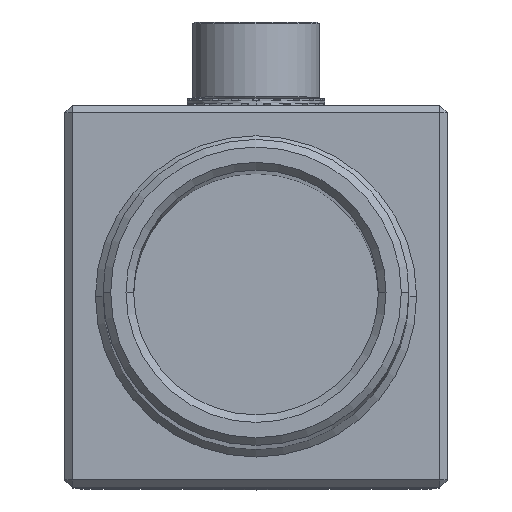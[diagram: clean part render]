
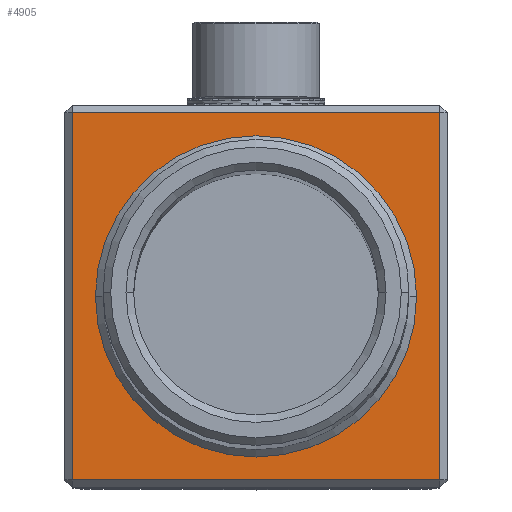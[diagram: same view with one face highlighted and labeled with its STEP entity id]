
A CAD part, top view. The second image highlights one B-rep face of the part: STEP entity #4905.
In plain terms, the highlighted planar face has unit normal (0, 0, 1).
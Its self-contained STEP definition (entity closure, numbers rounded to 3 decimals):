
#113 = DIRECTION ( 'NONE',  ( 0., 0., -1. ) ) ;
#133 = EDGE_CURVE ( 'NONE', #6597, #2951, #6101, .T. ) ;
#210 = CARTESIAN_POINT ( 'NONE',  ( 12., 12.5, 28. ) ) ;
#331 = DIRECTION ( 'NONE',  ( 0., 0., -1. ) ) ;
#421 = CIRCLE ( 'NONE', #3365, 10.5 ) ;
#469 = CARTESIAN_POINT ( 'NONE',  ( -12., -12., 28. ) ) ;
#642 = CARTESIAN_POINT ( 'NONE',  ( 0., 0., 28. ) ) ;
#951 = DIRECTION ( 'NONE',  ( -1., 0., 0. ) ) ;
#1341 = DIRECTION ( 'NONE',  ( 0., 0., 1. ) ) ;
#1356 = CARTESIAN_POINT ( 'NONE',  ( 0., 0., 28. ) ) ;
#1563 = VECTOR ( 'NONE', #6497, 1000. ) ;
#1676 = CARTESIAN_POINT ( 'NONE',  ( -12., 12., 28. ) ) ;
#1919 = CARTESIAN_POINT ( 'NONE',  ( -12., -12.5, 28. ) ) ;
#1937 = VERTEX_POINT ( 'NONE', #3065 ) ;
#2035 = AXIS2_PLACEMENT_3D ( 'NONE', #1356, #331, #9420 ) ;
#2376 = LINE ( 'NONE', #10594, #1563 ) ;
#2394 = CIRCLE ( 'NONE', #2035, 10.5 ) ;
#2490 = AXIS2_PLACEMENT_3D ( 'NONE', #642, #1341, #9623 ) ;
#2501 = ORIENTED_EDGE ( 'NONE', *, *, #9716, .T. ) ;
#2692 = ORIENTED_EDGE ( 'NONE', *, *, #4834, .T. ) ;
#2722 = CARTESIAN_POINT ( 'NONE',  ( -10.5, 0., 28. ) ) ;
#2763 = EDGE_CURVE ( 'NONE', #10088, #3216, #2394, .T. ) ;
#2951 = VERTEX_POINT ( 'NONE', #469 ) ;
#3065 = CARTESIAN_POINT ( 'NONE',  ( 12., 12., 28. ) ) ;
#3124 = CARTESIAN_POINT ( 'NONE',  ( 10.5, 0., 28. ) ) ;
#3216 = VERTEX_POINT ( 'NONE', #2722 ) ;
#3365 = AXIS2_PLACEMENT_3D ( 'NONE', #5711, #113, #10603 ) ;
#3503 = ORIENTED_EDGE ( 'NONE', *, *, #133, .T. ) ;
#3711 = VERTEX_POINT ( 'NONE', #5981 ) ;
#3875 = FACE_BOUND ( 'NONE', #4066, .T. ) ;
#4066 = EDGE_LOOP ( 'NONE', ( #8113, #8120 ) ) ;
#4312 = VECTOR ( 'NONE', #951, 1000. ) ;
#4337 = DIRECTION ( 'NONE',  ( 0., -1., 0. ) ) ;
#4598 = EDGE_CURVE ( 'NONE', #3216, #10088, #421, .T. ) ;
#4834 = EDGE_CURVE ( 'NONE', #3711, #1937, #8379, .T. ) ;
#4905 = ADVANCED_FACE ( 'NONE', ( #6226, #3875 ), #8066, .T. ) ;
#5315 = DIRECTION ( 'NONE',  ( 0., 1., 0. ) ) ;
#5366 = VECTOR ( 'NONE', #4337, 1000. ) ;
#5711 = CARTESIAN_POINT ( 'NONE',  ( 0., 0., 28. ) ) ;
#5981 = CARTESIAN_POINT ( 'NONE',  ( 12., -12., 28. ) ) ;
#6101 = LINE ( 'NONE', #1919, #5366 ) ;
#6226 = FACE_OUTER_BOUND ( 'NONE', #10569, .T. ) ;
#6497 = DIRECTION ( 'NONE',  ( 1., 0., 0. ) ) ;
#6597 = VERTEX_POINT ( 'NONE', #1676 ) ;
#8066 = PLANE ( 'NONE',  #2490 ) ;
#8113 = ORIENTED_EDGE ( 'NONE', *, *, #4598, .T. ) ;
#8120 = ORIENTED_EDGE ( 'NONE', *, *, #2763, .T. ) ;
#8317 = LINE ( 'NONE', #10037, #4312 ) ;
#8379 = LINE ( 'NONE', #210, #10372 ) ;
#9420 = DIRECTION ( 'NONE',  ( 1., 0., 0. ) ) ;
#9623 = DIRECTION ( 'NONE',  ( 1., 0., 0. ) ) ;
#9716 = EDGE_CURVE ( 'NONE', #2951, #3711, #2376, .T. ) ;
#10037 = CARTESIAN_POINT ( 'NONE',  ( -12.5, 12., 28. ) ) ;
#10088 = VERTEX_POINT ( 'NONE', #3124 ) ;
#10142 = EDGE_CURVE ( 'NONE', #1937, #6597, #8317, .T. ) ;
#10372 = VECTOR ( 'NONE', #5315, 1000. ) ;
#10464 = ORIENTED_EDGE ( 'NONE', *, *, #10142, .T. ) ;
#10569 = EDGE_LOOP ( 'NONE', ( #2501, #2692, #10464, #3503 ) ) ;
#10594 = CARTESIAN_POINT ( 'NONE',  ( 12.5, -12., 28. ) ) ;
#10603 = DIRECTION ( 'NONE',  ( 1., 0., 0. ) ) ;
